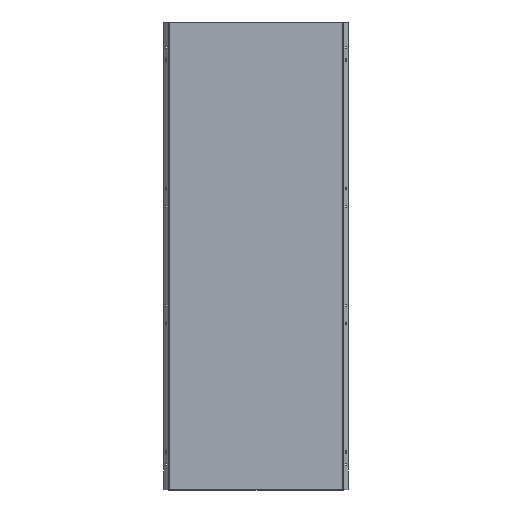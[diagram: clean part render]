
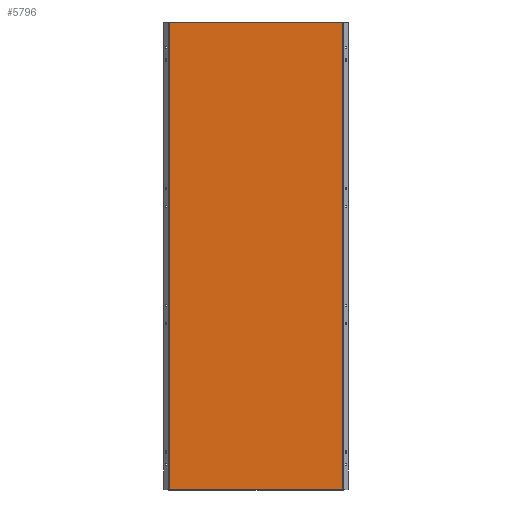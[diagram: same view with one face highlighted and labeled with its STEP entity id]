
A CAD part, top view. The second image highlights one B-rep face of the part: STEP entity #5796.
In plain terms, the highlighted planar face has unit normal (0, 0, 1).
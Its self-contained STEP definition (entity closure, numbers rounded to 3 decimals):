
#196 = ORIENTED_EDGE ( 'NONE', *, *, #4175, .T. ) ;
#242 = EDGE_CURVE ( 'NONE', #5249, #3444, #1538, .T. ) ;
#442 = EDGE_LOOP ( 'NONE', ( #2614, #196, #1129, #2568 ) ) ;
#925 = CARTESIAN_POINT ( 'NONE',  ( 361.5, -970.5, 0. ) ) ;
#1129 = ORIENTED_EDGE ( 'NONE', *, *, #7484, .T. ) ;
#1193 = VECTOR ( 'NONE', #7587, 1000. ) ;
#1419 = LINE ( 'NONE', #4621, #6423 ) ;
#1538 = LINE ( 'NONE', #3913, #1193 ) ;
#1654 = CARTESIAN_POINT ( 'NONE',  ( 361.5, 970.5, 0. ) ) ;
#1684 = CARTESIAN_POINT ( 'NONE',  ( -361.5, -970.5, 0. ) ) ;
#1718 = FACE_OUTER_BOUND ( 'NONE', #442, .T. ) ;
#2321 = DIRECTION ( 'NONE',  ( 0., 0., -1. ) ) ;
#2512 = DIRECTION ( 'NONE',  ( 0., -1., 0. ) ) ;
#2568 = ORIENTED_EDGE ( 'NONE', *, *, #242, .T. ) ;
#2614 = ORIENTED_EDGE ( 'NONE', *, *, #4208, .T. ) ;
#2621 = DIRECTION ( 'NONE',  ( -1., 0., 0. ) ) ;
#3088 = CARTESIAN_POINT ( 'NONE',  ( -361.5, 970.5, 0. ) ) ;
#3105 = CARTESIAN_POINT ( 'NONE',  ( -361.5, -970.5, 0. ) ) ;
#3260 = LINE ( 'NONE', #925, #3999 ) ;
#3403 = DIRECTION ( 'NONE',  ( -1., 0., 0. ) ) ;
#3444 = VERTEX_POINT ( 'NONE', #4804 ) ;
#3446 = CARTESIAN_POINT ( 'NONE',  ( 0., 0., 0. ) ) ;
#3913 = CARTESIAN_POINT ( 'NONE',  ( -361.5, -970.5, 0. ) ) ;
#3999 = VECTOR ( 'NONE', #5824, 1000. ) ;
#4175 = EDGE_CURVE ( 'NONE', #4259, #6642, #1419, .T. ) ;
#4208 = EDGE_CURVE ( 'NONE', #3444, #4259, #3260, .T. ) ;
#4259 = VERTEX_POINT ( 'NONE', #1654 ) ;
#4621 = CARTESIAN_POINT ( 'NONE',  ( -361.5, 970.5, 0. ) ) ;
#4787 = VECTOR ( 'NONE', #2512, 1000. ) ;
#4804 = CARTESIAN_POINT ( 'NONE',  ( 361.5, -970.5, 0. ) ) ;
#4916 = LINE ( 'NONE', #3105, #4787 ) ;
#5249 = VERTEX_POINT ( 'NONE', #1684 ) ;
#5368 = PLANE ( 'NONE',  #6489 ) ;
#5796 = ADVANCED_FACE ( 'NONE', ( #1718 ), #5368, .F. ) ;
#5824 = DIRECTION ( 'NONE',  ( 0., 1., 0. ) ) ;
#6423 = VECTOR ( 'NONE', #2621, 1000. ) ;
#6489 = AXIS2_PLACEMENT_3D ( 'NONE', #3446, #2321, #3403 ) ;
#6642 = VERTEX_POINT ( 'NONE', #3088 ) ;
#7484 = EDGE_CURVE ( 'NONE', #6642, #5249, #4916, .T. ) ;
#7587 = DIRECTION ( 'NONE',  ( 1., 0., 0. ) ) ;
